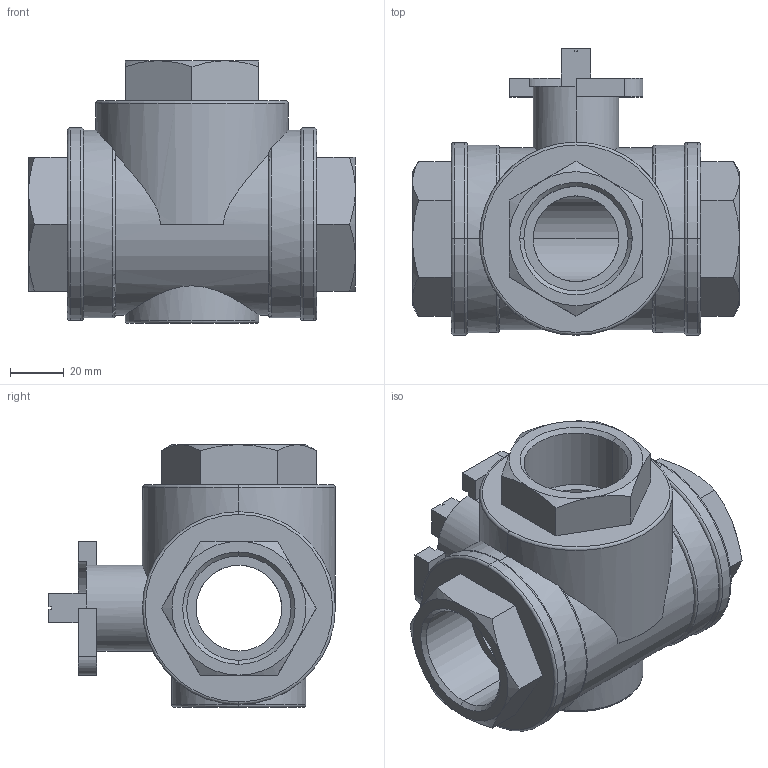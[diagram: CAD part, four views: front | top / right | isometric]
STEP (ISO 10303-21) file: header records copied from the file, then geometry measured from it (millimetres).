
FILE_DESCRIPTION (( 'STEP AP214' ), '1' );
FILE_NAME ('Ballvalve A35-DN32 G1 1_4.step', '2010-09-23T08:41:09', ( '' ), ( '' ), 'SwSTEP 2.0', 'SolidWorks 2010', '' );
FILE_SCHEMA (( 'AUTOMOTIVE_DESIGN' ));
Length unit declared in the file: millimetre
Products named in the file (1): Ballvalve A35-DN32 G1 1_4
Bounding box: 122 x 107 x 98 mm (x, y, z)
Volume: 388498.3 mm3; surface area: 63489.1 mm2
Topology: 1 solids, 1 shells, 126 faces, 307 edges, 189 vertices
Faces by surface type: plane 51, cylinder 36, cone 24, torus 15
Entity records: 4332 total; most frequent: CARTESIAN_POINT 1289, DIRECTION 614, ORIENTED_EDGE 614, EDGE_CURVE 307, AXIS2_PLACEMENT_3D 238, VERTEX_POINT 189, EDGE_LOOP 142, LINE 138
